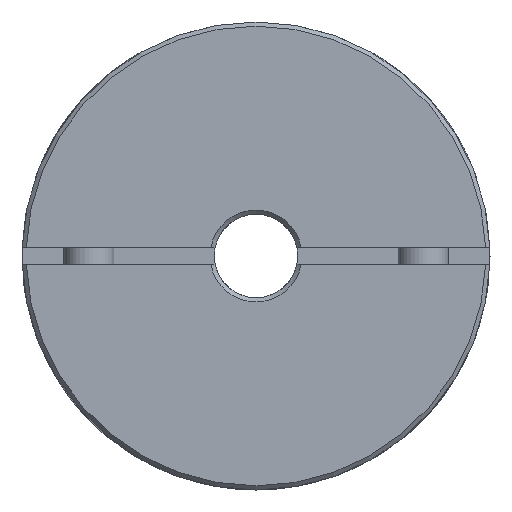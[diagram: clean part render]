
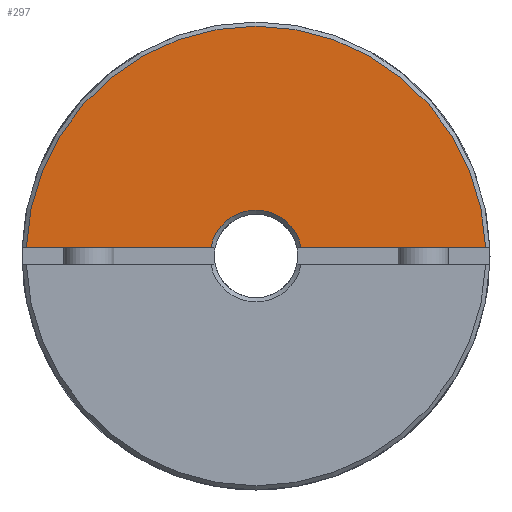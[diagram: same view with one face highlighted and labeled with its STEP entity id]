
A CAD part, left-side view. The second image highlights one B-rep face of the part: STEP entity #297.
In plain terms, the highlighted planar face has unit normal (-1, 0, 0) as drawn and (1, 0, 0) by its records, which use the part's own axes.
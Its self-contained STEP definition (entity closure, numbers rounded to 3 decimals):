
#297 = ADVANCED_FACE( '', ( #603 ), #604, .T. );
#603 = FACE_OUTER_BOUND( '', #1010, .T. );
#604 = PLANE( '', #1011 );
#1010 = EDGE_LOOP( '', ( #1491, #1492, #1493, #1494 ) );
#1011 = AXIS2_PLACEMENT_3D( '', #1495, #1496, #1497 );
#1491 = ORIENTED_EDGE( '', *, *, #2108, .F. );
#1492 = ORIENTED_EDGE( '', *, *, #2109, .T. );
#1493 = ORIENTED_EDGE( '', *, *, #2092, .F. );
#1494 = ORIENTED_EDGE( '', *, *, #2011, .T. );
#1495 = CARTESIAN_POINT( '', ( 21., 0., 28. ) );
#1496 = DIRECTION( '', ( 1., 0., 0. ) );
#1497 = DIRECTION( '', ( 0., 0., -1. ) );
#2011 = EDGE_CURVE( '', #2263, #2267, #2269, .F. );
#2092 = EDGE_CURVE( '', #2263, #2403, #2404, .T. );
#2108 = EDGE_CURVE( '', #2428, #2267, #2429, .T. );
#2109 = EDGE_CURVE( '', #2428, #2403, #2430, .T. );
#2263 = VERTEX_POINT( '', #2621 );
#2267 = VERTEX_POINT( '', #2628 );
#2269 = CIRCLE( '', #2633, 5.5 );
#2403 = VERTEX_POINT( '', #2793 );
#2404 = LINE( '', #2794, #2795 );
#2428 = VERTEX_POINT( '', #2830 );
#2429 = LINE( '', #2831, #2832 );
#2430 = CIRCLE( '', #2833, 27.5 );
#2621 = CARTESIAN_POINT( '', ( 21., -5.408, 1. ) );
#2628 = CARTESIAN_POINT( '', ( 21., 5.408, 1. ) );
#2633 = AXIS2_PLACEMENT_3D( '', #3322, #3323, #3324 );
#2793 = CARTESIAN_POINT( '', ( 21., -27.482, 1. ) );
#2794 = CARTESIAN_POINT( '', ( 21., 0., 1. ) );
#2795 = VECTOR( '', #3456, 1000. );
#2830 = CARTESIAN_POINT( '', ( 21., 27.482, 1. ) );
#2831 = CARTESIAN_POINT( '', ( 21., 0., 1. ) );
#2832 = VECTOR( '', #3474, 1000. );
#2833 = AXIS2_PLACEMENT_3D( '', #3475, #3476, #3477 );
#3322 = CARTESIAN_POINT( '', ( 21., 0., 0. ) );
#3323 = DIRECTION( '', ( 1., 0., 0. ) );
#3324 = DIRECTION( '', ( 0., 0., -1. ) );
#3456 = DIRECTION( '', ( 0., -1., 0. ) );
#3474 = DIRECTION( '', ( 0., -1., 0. ) );
#3475 = CARTESIAN_POINT( '', ( 21., 0., 0. ) );
#3476 = DIRECTION( '', ( 1., 0., 0. ) );
#3477 = DIRECTION( '', ( 0., 0., -1. ) );
